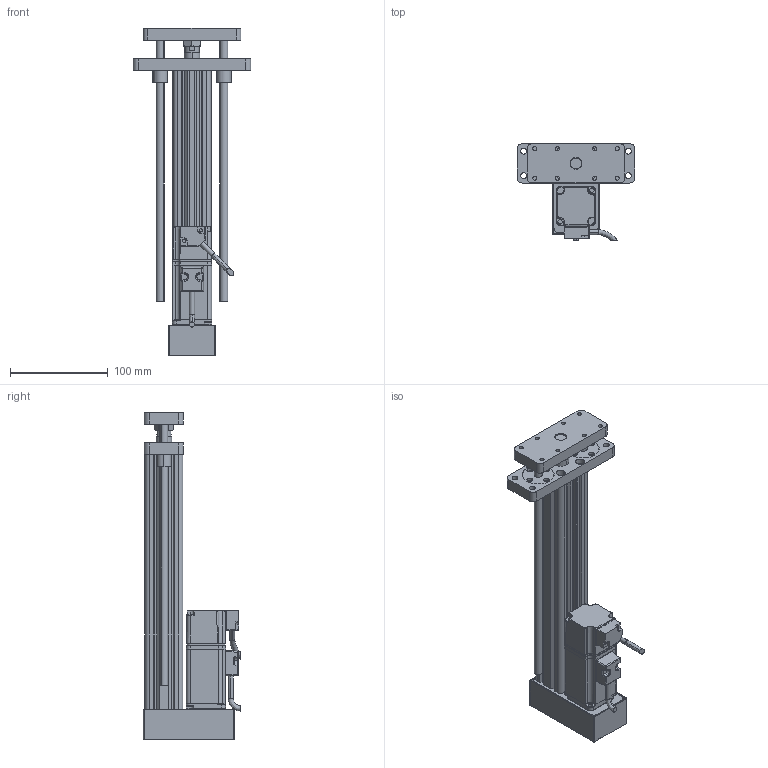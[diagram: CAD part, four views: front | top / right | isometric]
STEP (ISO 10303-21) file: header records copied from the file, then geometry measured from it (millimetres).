
FILE_DESCRIPTION (( 'STEP AP214' ), '1' );
FILE_NAME ('039-S200-D02-B-M3-C5-2.STEP', '2021-02-26T00:52:08', ( '' ), ( '' ), 'SwSTEP 2.0', 'SolidWorks 2018', '' );
FILE_SCHEMA (( 'AUTOMOTIVE_DESIGN' ));
Length unit declared in the file: millimetre
Products named in the file (11): CMC039-LJB; CMC039-GT; GB／T6172．1-2000六角薄螺母A级和B级M12; CMC039-FL; CMC039-DB; 039-S200-D02-B-M3-C5-2; LME01-d8; ECMA-CX0401ES-40框號系列機種-100W低慣量系列; CMC039-DZ; CMC039-XT; CMC039-DT
Assembly tree (12 placements, depth 2):
  039-S200-D02-B-M3-C5-2
    CMC039-GT
    CMC039-LJB
    CMC039-XT
    CMC039-FL
    CMC039-DT
    ECMA-CX0401ES-40框號系列機種-100W低慣量系列
    LME01-d8  x2
    CMC039-DB
    GB／T6172．1-2000六角薄螺母A级和B级M12
    CMC039-DZ  x2
Bounding box: 120 x 99.39 x 334 mm (x, y, z)
Volume: 572177.8 mm3; surface area: 204887.2 mm2
Topology: 12 solids, 20 shells, 766 faces, 1956 edges, 1223 vertices
Faces by surface type: cylinder 336, plane 275, bspline 88, cone 67
Entity records: 28536 total; most frequent: CARTESIAN_POINT 11352, ORIENTED_EDGE 3654, DIRECTION 3059, EDGE_CURVE 1827, VERTEX_POINT 1164, AXIS2_PLACEMENT_3D 1094, LINE 871, VECTOR 871
